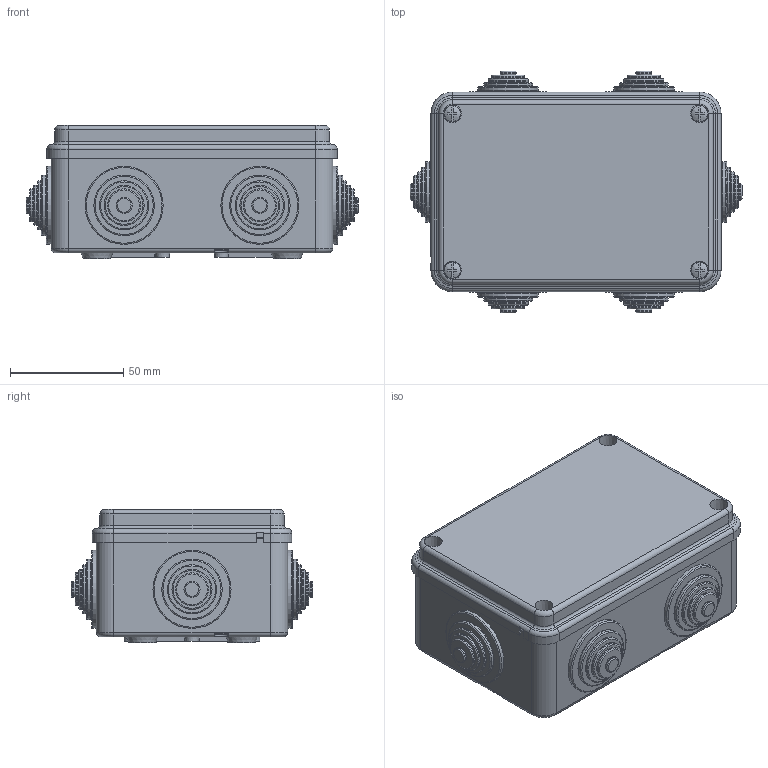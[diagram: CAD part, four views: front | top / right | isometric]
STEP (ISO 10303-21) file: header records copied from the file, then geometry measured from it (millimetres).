
FILE_DESCRIPTION(/* description */ (''),/* implementation_level */ '2;1');
FILE_NAME(/* name */ '4002106.stp',/* time_stamp */ '2019-10-25T08:01:35+02:00',/* author */ (''),/* organization */ (''),/* preprocessor_version */ 'ST-DEVELOPER v16.7',/* originating_system */ 'SIEMENS PLM Software NX 1888',/* authorisation */ '');
FILE_SCHEMA (('AUTOMOTIVE_DESIGN { 1 0 10303 214 3 1 1 1 }'));
Length unit declared in the file: millimetre
Products named in the file (1): BSOM238C35BBx23r
Bounding box: 146.7 x 106.7 x 58.8 mm (x, y, z)
Volume: 123314.8 mm3; surface area: 130322.8 mm2
Topology: 12 solids, 12 shells, 995 faces, 2196 edges, 1346 vertices
Faces by surface type: plane 380, cylinder 263, cone 186, torus 128, sphere 22, bspline 16
Full cylindrical faces by diameter (mm): 3.2 x8, 4 x4, 7.1 x6, 7.5 x4, 10 x4, 13 x4, 14.6 x6, 16.2 x6, 17.7 x6, 20.2 x6, 21.7 x6, 25 x12, 26.7 x6, 28.9 x6, 29 x6, 33 x6, 34.5 x6
Entity records: 26405 total; most frequent: CARTESIAN_POINT 5517, DIRECTION 4602, ORIENTED_EDGE 3636, AXIS2_PLACEMENT_3D 1922, EDGE_CURVE 1818, EDGE_LOOP 1464, VERTEX_POINT 1296, ADVANCED_FACE 995
